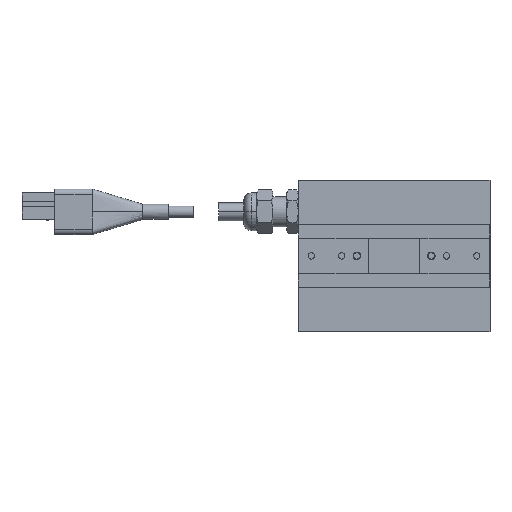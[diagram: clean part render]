
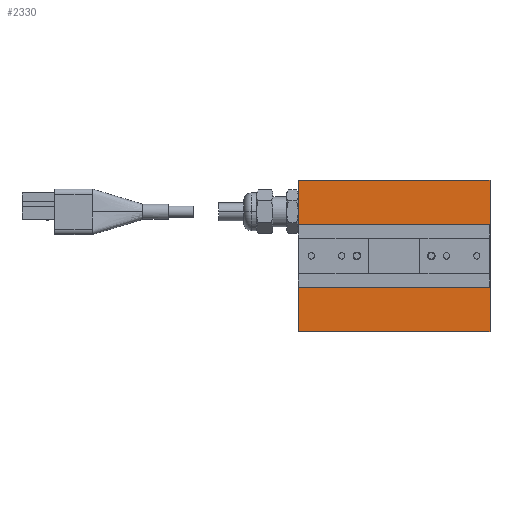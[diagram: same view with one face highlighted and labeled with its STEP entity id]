
A CAD part, top view. The second image highlights one B-rep face of the part: STEP entity #2330.
In plain terms, the highlighted planar face has unit normal (0, 0, 1) as drawn and (0, 0, -1) by its records, which use the part's own axes.
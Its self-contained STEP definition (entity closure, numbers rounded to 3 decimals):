
#2141 = VERTEX_POINT ( 'NONE', #10680 ) ;
#2203 = VERTEX_POINT ( 'NONE', #10886 ) ;
#2205 = EDGE_CURVE ( 'NONE', #2203, #2141, #10885, .T. ) ;
#2330 = ADVANCED_FACE ( 'NONE', ( #11184, #11183 ), #11168, .F. ) ;
#2331 = EDGE_LOOP ( 'NONE', ( #2332, #2336, #2339, #2342 ) ) ;
#2332 = ORIENTED_EDGE ( 'NONE', *, *, #2333, .F. ) ;
#2333 = EDGE_CURVE ( 'NONE', #2334, #2335, #11229, .T. ) ;
#2334 = VERTEX_POINT ( 'NONE', #11225 ) ;
#2335 = VERTEX_POINT ( 'NONE', #11224 ) ;
#2336 = ORIENTED_EDGE ( 'NONE', *, *, #2337, .F. ) ;
#2337 = EDGE_CURVE ( 'NONE', #2338, #2334, #11223, .T. ) ;
#2338 = VERTEX_POINT ( 'NONE', #11219 ) ;
#2339 = ORIENTED_EDGE ( 'NONE', *, *, #2340, .T. ) ;
#2340 = EDGE_CURVE ( 'NONE', #2338, #2341, #11218, .T. ) ;
#2341 = VERTEX_POINT ( 'NONE', #11214 ) ;
#2342 = ORIENTED_EDGE ( 'NONE', *, *, #2343, .T. ) ;
#2343 = EDGE_CURVE ( 'NONE', #2341, #2335, #11213, .T. ) ;
#2344 = EDGE_LOOP ( 'NONE', ( #2393, #2396, #2397, #2400 ) ) ;
#2393 = ORIENTED_EDGE ( 'NONE', *, *, #2394, .T. ) ;
#2394 = EDGE_CURVE ( 'NONE', #2395, #2141, #11404, .T. ) ;
#2395 = VERTEX_POINT ( 'NONE', #11400 ) ;
#2396 = ORIENTED_EDGE ( 'NONE', *, *, #2205, .F. ) ;
#2397 = ORIENTED_EDGE ( 'NONE', *, *, #2398, .F. ) ;
#2398 = EDGE_CURVE ( 'NONE', #2399, #2203, #11399, .T. ) ;
#2399 = VERTEX_POINT ( 'NONE', #11395 ) ;
#2400 = ORIENTED_EDGE ( 'NONE', *, *, #2401, .T. ) ;
#2401 = EDGE_CURVE ( 'NONE', #2399, #2395, #11393, .T. ) ;
#10680 = CARTESIAN_POINT ( 'NONE',  ( -38., 0., -15. ) ) ;
#10882 = DIRECTION ( 'NONE',  ( 0., -1., 0. ) ) ;
#10883 = VECTOR ( 'NONE', #10882, 1000. ) ;
#10884 = CARTESIAN_POINT ( 'NONE',  ( -38., 60., -15. ) ) ;
#10885 = LINE ( 'NONE', #10884, #10883 ) ;
#10886 = CARTESIAN_POINT ( 'NONE',  ( -38., 60., -15. ) ) ;
#11168 = PLANE ( 'NONE',  #11233 ) ;
#11183 = FACE_OUTER_BOUND ( 'NONE', #2344, .T. ) ;
#11184 = FACE_BOUND ( 'NONE', #2331, .T. ) ;
#11210 = DIRECTION ( 'NONE',  ( 0., -1., 0. ) ) ;
#11211 = VECTOR ( 'NONE', #11210, 1000. ) ;
#11212 = CARTESIAN_POINT ( 'NONE',  ( -37.95, 42., -15. ) ) ;
#11213 = LINE ( 'NONE', #11212, #11211 ) ;
#11214 = CARTESIAN_POINT ( 'NONE',  ( -37.95, 42., -15. ) ) ;
#11215 = DIRECTION ( 'NONE',  ( -1., 0., 0. ) ) ;
#11216 = VECTOR ( 'NONE', #11215, 1000. ) ;
#11217 = CARTESIAN_POINT ( 'NONE',  ( 37.95, 42., -15. ) ) ;
#11218 = LINE ( 'NONE', #11217, #11216 ) ;
#11219 = CARTESIAN_POINT ( 'NONE',  ( 37.95, 42., -15. ) ) ;
#11220 = DIRECTION ( 'NONE',  ( 0., -1., 0. ) ) ;
#11221 = VECTOR ( 'NONE', #11220, 1000. ) ;
#11222 = CARTESIAN_POINT ( 'NONE',  ( 37.95, 42., -15. ) ) ;
#11223 = LINE ( 'NONE', #11222, #11221 ) ;
#11224 = CARTESIAN_POINT ( 'NONE',  ( -37.95, 18., -15. ) ) ;
#11225 = CARTESIAN_POINT ( 'NONE',  ( 37.95, 18., -15. ) ) ;
#11226 = DIRECTION ( 'NONE',  ( -1., 0., 0. ) ) ;
#11227 = VECTOR ( 'NONE', #11226, 1000. ) ;
#11228 = CARTESIAN_POINT ( 'NONE',  ( 37.95, 18., -15. ) ) ;
#11229 = LINE ( 'NONE', #11228, #11227 ) ;
#11230 = DIRECTION ( 'NONE',  ( 1., 0., 0. ) ) ;
#11231 = DIRECTION ( 'NONE',  ( 0., 0., 1. ) ) ;
#11232 = CARTESIAN_POINT ( 'NONE',  ( -38., 60., -15. ) ) ;
#11233 = AXIS2_PLACEMENT_3D ( 'NONE', #11232, #11231, #11230 ) ;
#11390 = DIRECTION ( 'NONE',  ( 0., -1., 0. ) ) ;
#11391 = VECTOR ( 'NONE', #11390, 1000. ) ;
#11392 = CARTESIAN_POINT ( 'NONE',  ( 38., 60., -15. ) ) ;
#11393 = LINE ( 'NONE', #11392, #11391 ) ;
#11395 = CARTESIAN_POINT ( 'NONE',  ( 38., 60., -15. ) ) ;
#11396 = DIRECTION ( 'NONE',  ( -1., 0., 0. ) ) ;
#11397 = VECTOR ( 'NONE', #11396, 1000. ) ;
#11398 = CARTESIAN_POINT ( 'NONE',  ( -38., 60., -15. ) ) ;
#11399 = LINE ( 'NONE', #11398, #11397 ) ;
#11400 = CARTESIAN_POINT ( 'NONE',  ( 38., 0., -15. ) ) ;
#11401 = DIRECTION ( 'NONE',  ( -1., 0., 0. ) ) ;
#11402 = VECTOR ( 'NONE', #11401, 1000. ) ;
#11403 = CARTESIAN_POINT ( 'NONE',  ( -38., 0., -15. ) ) ;
#11404 = LINE ( 'NONE', #11403, #11402 ) ;
